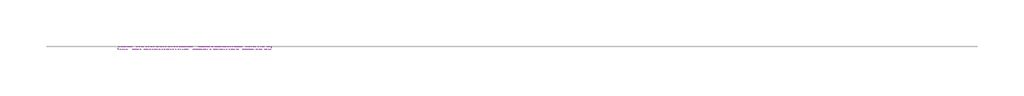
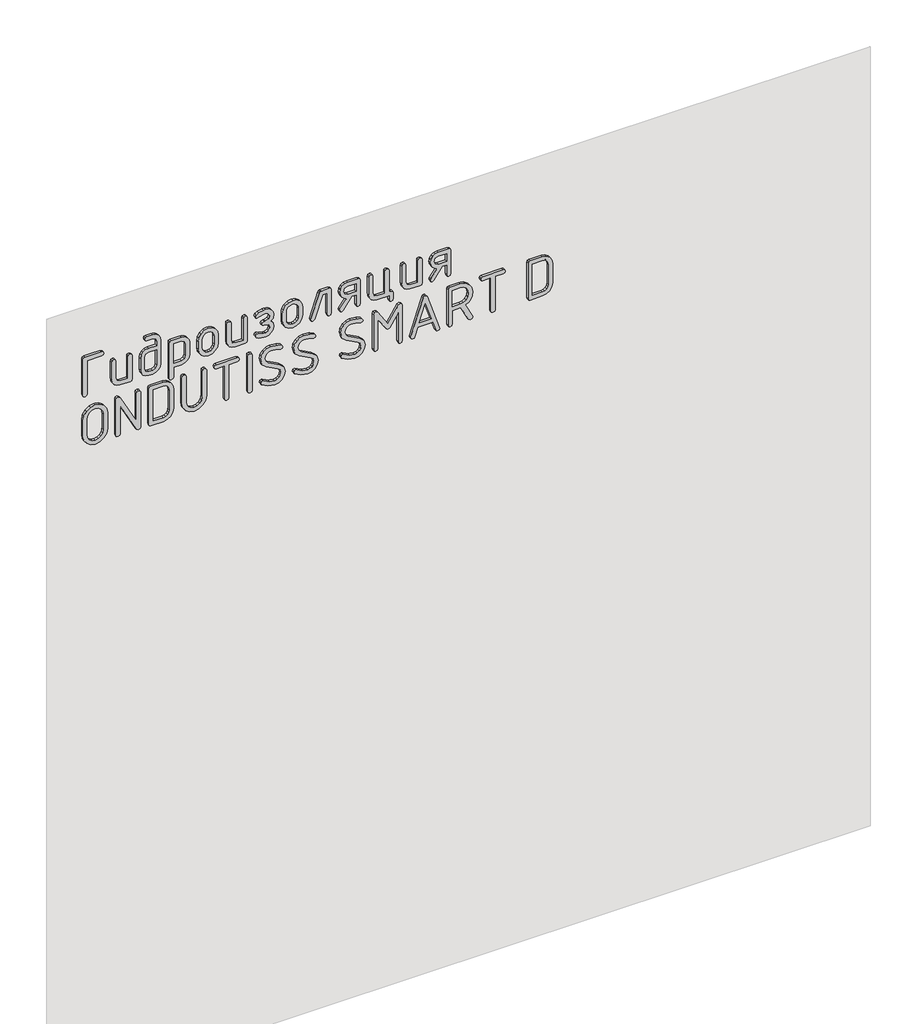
# One storey, part 33 of 42: 1 proxy.
"""IFC4 building model written with IfcOpenShell, lengths in millimetres."""

from ifc_helpers import new_model, si_unit, frame, origin, place, context, project, spatial, polyline, outline, extrude, element, save

model = new_model("IFC4")

# Units and contexts
model_context = context("Model", 3, world=origin())
ifc_project = project(units=[si_unit("LENGTHUNIT", "METRE", prefix="MILLI")], contexts=[model_context])

# Site, building, storey
site = spatial("IfcSite", under=ifc_project)
building = spatial("IfcBuilding", under=site)
storey = spatial("IfcBuildingStorey", under=building, Name="Этаж 01", Elevation=0.0)

# Proxy
placement = place(None, origin())
element("IfcBuildingElementProxy", 1, Name="150 мм GOST Common", ObjectType="150 мм GOST Common", at=placement, inside=storey, context=model_context, shape_type="SweptSolid", body=[
    extrude(outline(polyline([(2798.1927108, -4395.2767702), (2798.1927108, -4342.7803651), (2800.1103877, -4337.1471892), (2805.8634184, -4335.2694639), (2811.6164491, -4337.1471892), (2813.534126, -4342.7803651), (2813.534126, -4402.9474778), (2811.6464128, -4408.7005085), (2805.9832732, -4410.6181854), (2670.2277293, -4410.6181854), (2664.5645897, -4408.7005085), (2662.6768765, -4402.9474778), (2664.5546018, -4397.1944471), (2670.1877777, -4395.2767702), (2798.1927108, -4395.2767702)])), frame((0.0, -24838.3929597, 0.0), z_axis=(0.0, 1.0, 0.0), x_axis=(0.0, 0.0, 1.0)), (0.0, 0.0, 1.0), 10.0),
    extrude(outline(polyline([(2760.0389308, -4231.6350081), (2765.642143, -4233.552685), (2767.5098804, -4239.3057157), (2765.642143, -4245.0587464), (2760.0389308, -4246.9764233), (2678.0182917, -4246.9764233), (2678.0182917, -4275.9413348), (2682.4329437, -4286.168945), (2692.9202393, -4290.4437664), (2760.0389308, -4290.4437664), (2765.642143, -4292.3614433), (2767.5098804, -4298.114474), (2765.642143, -4303.8675047), (2760.0389308, -4305.7851816), (2692.6405781, -4305.7851816), (2681.004674, -4303.637783), (2671.3463742, -4297.1955871), (2664.8442509, -4287.6371663), (2662.6768765, -4276.1410928), (2662.6768765, -4239.0660061), (2664.5446139, -4233.4927576), (2670.1478261, -4231.6350081), (2760.0389308, -4231.6350081)])), frame((0.0, -24838.3929597, 0.0), z_axis=(0.0, 1.0, 0.0), x_axis=(0.0, 0.0, 1.0)), (0.0, 0.0, 1.0), 10.0),
    extrude(outline(polyline([(2783.3706664, -4126.8020043), (2794.9816007, -4128.934421), (2804.7247977, -4135.3316713), (2811.3317939, -4144.8151829), (2813.534126, -4156.2063834), (2813.534126, -4178.2596678), (2811.6164491, -4183.7729888), (2805.8634184, -4185.6107625), (2800.1103877, -4183.8029525), (2798.1927108, -4178.3795226), (2798.1927108, -4156.645851), (2793.7780587, -4146.3183619), (2782.8512956, -4142.1434195), (2767.5098804, -4142.1434195), (2767.5098804, -4171.5477986), (2765.342506, -4182.8890596), (2758.8403827, -4192.3825591), (2749.1820829, -4198.8097731), (2737.5461788, -4200.9521777), (2692.6405781, -4200.9521777), (2681.0795832, -4198.8047791), (2671.4063016, -4192.3625833), (2664.8592328, -4182.8041625), (2662.6768765, -4171.308089), (2662.6768765, -4156.446093), (2664.8642267, -4145.0249288), (2671.4262774, -4135.4515261), (2681.1544925, -4128.9643847), (2692.8403361, -4126.8020043), (2783.3706664, -4126.8020043)]), holes=[polyline([(2692.8403361, -4142.1434195), (2682.3530405, -4146.3782893), (2678.0182917, -4156.645851), (2678.0182917, -4171.108331), (2682.3929921, -4181.3359411), (2692.8403361, -4185.6107625), (2737.3464208, -4185.6107625), (2747.8337163, -4181.3758927), (2752.1684652, -4171.108331), (2752.1684652, -4142.1434195), (2692.8403361, -4142.1434195)])]), frame((0.0, -24838.3929597, 0.0), z_axis=(0.0, 1.0, 0.0), x_axis=(0.0, 0.0, 1.0)), (0.0, 0.0, 1.0), 10.0),
    extrude(outline(polyline([(2759.9590276, -4096.1191739), (2624.2034837, -4096.1191739), (2618.5403441, -4094.201497), (2616.6526309, -4088.4484663), (2618.5703078, -4082.6954356), (2624.3233385, -4080.7777587), (2662.6768765, -4080.7777587), (2662.6768765, -4051.3733796), (2664.8592328, -4039.982179), (2671.4063016, -4030.4986675), (2681.0795832, -4024.1014172), (2692.6405781, -4021.9690004), (2737.5461788, -4021.9690004), (2749.1820829, -4024.116399), (2758.8403827, -4030.5585949), (2765.342506, -4040.1170157), (2767.5098804, -4051.6130892), (2767.5098804, -4088.6881759), (2765.6221672, -4094.2614244), (2759.9590276, -4096.1191739)]), holes=[polyline([(2752.1684652, -4080.7777587), (2752.1684652, -4051.8128472), (2747.8936437, -4041.485358), (2737.3464208, -4037.3104156), (2692.8403361, -4037.3104156), (2682.3530405, -4041.5452854), (2678.0182917, -4051.8128472), (2678.0182917, -4080.7777587), (2752.1684652, -4080.7777587)])]), frame((0.0, -24838.3929597, 0.0), z_axis=(0.0, 1.0, 0.0), x_axis=(0.0, 0.0, 1.0)), (0.0, 0.0, 1.0), 10.0),
    extrude(outline(polyline([(2700.1115277, -3991.28617), (2685.718963, -3988.574455), (2673.6236155, -3980.4393101), (2665.4135613, -3968.4588234), (2662.6768765, -3954.2110833), (2665.4135613, -3939.9633432), (2673.6236155, -3927.9828565), (2685.718963, -3919.8477116), (2700.1115277, -3917.1359966), (2730.0752292, -3917.1359966), (2744.6176124, -3919.8177479), (2756.6829962, -3927.8630017), (2764.8031593, -3939.8135247), (2767.5098804, -3954.2110833), (2764.7731956, -3968.4588234), (2756.5631414, -3980.4393101), (2744.4677939, -3988.574455), (2730.0752292, -3991.28617), (2700.1115277, -3991.28617)]), holes=[polyline([(2700.5509953, -3932.4774118), (2691.8914855, -3934.0704819), (2684.6103061, -3938.8496923), (2679.6662953, -3945.8761803), (2678.0182917, -3954.2110833), (2679.6563074, -3962.6208955), (2684.5703545, -3969.6324017), (2691.841546, -3974.3666666), (2700.5509953, -3975.9447548), (2730.5546484, -3975.9447548), (2739.1841945, -3974.3516847), (2746.4553861, -3969.5724743), (2751.3993968, -3962.5459863), (2753.0474004, -3954.2110833), (2751.3993968, -3945.8761803), (2746.4553861, -3938.8496923), (2739.1841945, -3934.0704819), (2730.5546484, -3932.4774118), (2700.5509953, -3932.4774118)])]), frame((0.0, -24838.3929597, 0.0), z_axis=(0.0, 1.0, 0.0), x_axis=(0.0, 0.0, 1.0)), (0.0, 0.0, 1.0), 10.0),
    extrude(outline(polyline([(2760.0389308, -3812.3029927), (2765.642143, -3814.2206696), (2767.5098804, -3819.9737003), (2765.642143, -3825.726731), (2760.0389308, -3827.6444079), (2678.0182917, -3827.6444079), (2678.0182917, -3856.6093194), (2682.4329437, -3866.8369296), (2692.9202393, -3871.111751), (2760.0389308, -3871.111751), (2765.642143, -3873.0294279), (2767.5098804, -3878.7824586), (2765.642143, -3884.5354893), (2760.0389308, -3886.4531662), (2692.6405781, -3886.4531662), (2681.004674, -3884.3057676), (2671.3463742, -3877.8635717), (2664.8442509, -3868.3051509), (2662.6768765, -3856.8090774), (2662.6768765, -3819.7339907), (2664.5446139, -3814.1607422), (2670.1478261, -3812.3029927), (2760.0389308, -3812.3029927)])), frame((0.0, -24838.3929597, 0.0), z_axis=(0.0, 1.0, 0.0), x_axis=(0.0, 0.0, 1.0)), (0.0, 0.0, 1.0), 10.0),
    extrude(outline(polyline([(2693.3996585, -3730.4821117), (2682.5128469, -3734.8568121), (2678.0182917, -3745.5039141), (2678.0182917, -3753.0148152), (2681.8336697, -3768.0565934), (2685.6490477, -3777.1855345), (2682.9323388, -3781.3005495), (2677.6587273, -3783.0184684), (2671.7059386, -3779.9721587), (2666.6320851, -3770.8332298), (2662.6768765, -3753.0148152), (2662.6768765, -3745.5039141), (2664.8991844, -3733.8180704), (2671.566108, -3724.0099521), (2681.4591234, -3717.3580104), (2693.3597069, -3715.1406965), (2707.1829612, -3717.7874901), (2716.3718297, -3725.727871), (2725.0113637, -3717.7874901), (2738.3052592, -3715.1406965), (2749.6215505, -3717.3580104), (2759.0401407, -3724.0099521), (2765.3924455, -3733.8180704), (2767.5098804, -3745.5039141), (2767.5098804, -3753.0148152), (2763.434817, -3770.713375), (2758.2710724, -3779.942195), (2752.5280296, -3783.0184684), (2747.2743939, -3781.3005495), (2744.5377092, -3777.3053893), (2748.3530872, -3768.396182), (2752.1684652, -3753.0148152), (2752.1684652, -3745.5039141), (2748.1133776, -3734.8168605), (2738.1055012, -3730.4821117), (2728.0976249, -3734.5172235), (2724.0425373, -3746.1830913), (2724.0425373, -3748.5801874), (2724.0425373, -3750.8574287), (2721.7852718, -3758.2684509), (2716.3318781, -3760.4857648), (2710.8984602, -3758.3283783), (2708.7011221, -3753.0148152), (2708.7011221, -3743.3465275), (2704.7459135, -3734.4772719), (2693.3996585, -3730.4821117)])), frame((0.0, -24838.3929597, 0.0), z_axis=(0.0, 1.0, 0.0), x_axis=(0.0, 0.0, 1.0)), (0.0, 0.0, 1.0), 10.0),
    extrude(outline(polyline([(2700.1115277, -3684.4578661), (2685.718963, -3681.7461511), (2673.6236155, -3673.6110061), (2665.4135613, -3661.6305194), (2662.6768765, -3647.3827794), (2665.4135613, -3633.1350393), (2673.6236155, -3621.1545526), (2685.718963, -3613.0194076), (2700.1115277, -3610.3076926), (2730.0752292, -3610.3076926), (2744.6176124, -3612.9894439), (2756.6829962, -3621.0346978), (2764.8031593, -3632.9852208), (2767.5098804, -3647.3827794), (2764.7731956, -3661.6305194), (2756.5631414, -3673.6110061), (2744.4677939, -3681.7461511), (2730.0752292, -3684.4578661), (2700.1115277, -3684.4578661)]), holes=[polyline([(2700.5509953, -3625.6491078), (2691.8914855, -3627.242178), (2684.6103061, -3632.0213884), (2679.6662953, -3639.0478764), (2678.0182917, -3647.3827794), (2679.6563074, -3655.7925916), (2684.5703545, -3662.8040978), (2691.841546, -3667.5383626), (2700.5509953, -3669.1164509), (2730.5546484, -3669.1164509), (2739.1841945, -3667.5233807), (2746.4553861, -3662.7441704), (2751.3993968, -3655.7176823), (2753.0474004, -3647.3827794), (2751.3993968, -3639.0478764), (2746.4553861, -3632.0213884), (2739.1841945, -3627.242178), (2730.5546484, -3625.6491078), (2700.5509953, -3625.6491078)])]), frame((0.0, -24838.3929597, 0.0), z_axis=(0.0, 1.0, 0.0), x_axis=(0.0, 0.0, 1.0)), (0.0, 0.0, 1.0), 10.0),
    extrude(outline(polyline([(2767.5098804, -3543.3088559), (2765.9817316, -3547.9032902), (2761.3972852, -3550.8197571), (2672.5449222, -3580.4638459), (2670.2676809, -3580.8234103), (2664.5745776, -3578.945685), (2662.6768765, -3573.3125091), (2667.75073, -3566.2410755), (2752.1684652, -3537.9553413), (2752.1684652, -3520.816104), (2670.1478261, -3520.816104), (2664.5446139, -3518.8984271), (2662.6768765, -3513.1453964), (2664.5446139, -3507.3923657), (2670.1478261, -3505.4746888), (2760.0389308, -3505.4746888), (2765.642143, -3507.3923657), (2767.5098804, -3513.1453964), (2767.5098804, -3543.3088559)])), frame((0.0, -24838.3929597, 0.0), z_axis=(0.0, 1.0, 0.0), x_axis=(0.0, 0.0, 1.0)), (0.0, 0.0, 1.0), 10.0),
    extrude(outline(polyline([(2707.8221869, -3449.2627847), (2674.7023087, -3474.5121972), (2670.1478261, -3475.9904064), (2664.5446139, -3474.1126811), (2662.6768765, -3468.4795053), (2665.7531499, -3462.4468133), (2707.6623805, -3431.2046605), (2707.6623805, -3415.9831001), (2670.1877777, -3415.9831001), (2664.5546018, -3414.0654232), (2662.6768765, -3408.3123925), (2664.5446139, -3402.5593618), (2670.1478261, -3400.6416849), (2760.0389308, -3400.6416849), (2765.642143, -3402.5593618), (2767.5098804, -3408.3123925), (2767.5098804, -3445.9867533), (2765.342506, -3457.6026816), (2758.8403827, -3467.2809572), (2749.1820829, -3473.8130441), (2737.5461788, -3475.9904064), (2726.784216, -3474.0976993), (2717.5903536, -3468.4195778), (2710.9434058, -3459.8449653), (2707.8221869, -3449.2627847)]), holes=[polyline([(2737.1466628, -3460.9686041), (2747.7937647, -3456.5939036), (2752.1684652, -3445.9867533), (2752.1684652, -3415.9831001), (2722.164812, -3415.9831001), (2722.164812, -3445.9867533), (2726.5994398, -3456.5339762), (2737.1466628, -3460.9686041)])]), frame((0.0, -24838.3929597, 0.0), z_axis=(0.0, 1.0, 0.0), x_axis=(0.0, 0.0, 1.0)), (0.0, 0.0, 1.0), 10.0),
    extrude(outline(polyline([(2678.0182917, -3288.1379735), (2678.0182917, -3295.8086811), (2760.0389308, -3295.8086811), (2765.642143, -3297.726358), (2767.5098804, -3303.4793887), (2765.642143, -3309.2324194), (2760.0389308, -3311.1500963), (2678.0182917, -3311.1500963), (2678.0182917, -3340.1150078), (2682.4329437, -3350.3426179), (2692.9202393, -3354.6174393), (2760.0389308, -3354.6174393), (2765.642143, -3356.5351162), (2767.5098804, -3362.2881469), (2765.642143, -3368.0411776), (2760.0389308, -3369.9588545), (2692.6405781, -3369.9588545), (2681.0795832, -3367.8114559), (2671.4063016, -3361.3692601), (2664.8592328, -3351.8108393), (2662.6768765, -3340.3147658), (2662.6768765, -3295.8086811), (2647.3354613, -3295.8086811), (2641.5824306, -3293.8910042), (2639.6647537, -3288.1379735), (2641.5824306, -3282.3849428), (2647.3354613, -3280.4672659), (2670.3475841, -3280.4672659), (2676.1006148, -3282.3849428), (2678.0182917, -3288.1379735)])), frame((0.0, -24838.3929597, 0.0), z_axis=(0.0, 1.0, 0.0), x_axis=(0.0, 0.0, 1.0)), (0.0, 0.0, 1.0), 10.0),
    extrude(outline(polyline([(2760.0389308, -3175.634262), (2765.642143, -3177.5519389), (2767.5098804, -3183.3049696), (2765.642143, -3189.0580003), (2760.0389308, -3190.9756772), (2678.0182917, -3190.9756772), (2678.0182917, -3219.9405887), (2682.4329437, -3230.1681989), (2692.9202393, -3234.4430203), (2760.0389308, -3234.4430203), (2765.642143, -3236.3606972), (2767.5098804, -3242.1137279), (2765.642143, -3247.8667586), (2760.0389308, -3249.7844355), (2692.6405781, -3249.7844355), (2681.004674, -3247.6370369), (2671.3463742, -3241.194841), (2664.8442509, -3231.6364202), (2662.6768765, -3220.1403467), (2662.6768765, -3183.06526), (2664.5446139, -3177.4920115), (2670.1478261, -3175.634262), (2760.0389308, -3175.634262)])), frame((0.0, -24838.3929597, 0.0), z_axis=(0.0, 1.0, 0.0), x_axis=(0.0, 0.0, 1.0)), (0.0, 0.0, 1.0), 10.0),
    extrude(outline(polyline([(2707.8221869, -3119.4223579), (2674.7023087, -3144.6717704), (2670.1478261, -3146.1499797), (2664.5446139, -3144.2722544), (2662.6768765, -3138.6390785), (2665.7531499, -3132.6063866), (2707.6623805, -3101.3642338), (2707.6623805, -3086.1426734), (2670.1877777, -3086.1426734), (2664.5546018, -3084.2249965), (2662.6768765, -3078.4719658), (2664.5446139, -3072.7189351), (2670.1478261, -3070.8012582), (2760.0389308, -3070.8012582), (2765.642143, -3072.7189351), (2767.5098804, -3078.4719658), (2767.5098804, -3116.1463265), (2765.342506, -3127.7622548), (2758.8403827, -3137.4405304), (2749.1820829, -3143.9726174), (2737.5461788, -3146.1499797), (2726.784216, -3144.2572725), (2717.5903536, -3138.5791511), (2710.9434058, -3130.0045385), (2707.8221869, -3119.4223579)]), holes=[polyline([(2737.1466628, -3131.1281773), (2747.7937647, -3126.7534769), (2752.1684652, -3116.1463265), (2752.1684652, -3086.1426734), (2722.164812, -3086.1426734), (2722.164812, -3116.1463265), (2726.5994398, -3126.6935495), (2737.1466628, -3131.1281773)])]), frame((0.0, -24838.3929597, 0.0), z_axis=(0.0, 1.0, 0.0), x_axis=(0.0, 0.0, 1.0)), (0.0, 0.0, 1.0), 10.0),
    extrude(outline(polyline([(2511.9177961, -4321.1265968), (2572.2447152, -4321.1265968), (2589.6885835, -4324.3876463), (2604.3058759, -4334.1707949), (2614.2088792, -4348.618293), (2617.5098804, -4365.8723911), (2614.1938974, -4383.05158), (2604.2459485, -4397.5140599), (2589.6136742, -4407.3421541), (2572.2447152, -4410.6181854), (2511.9177961, -4410.6181854), (2494.5488371, -4407.3421541), (2479.9165628, -4397.5140599), (2469.9686139, -4383.05158), (2466.6526309, -4365.8723911), (2469.9686139, -4348.6932022), (2479.9165628, -4334.2307223), (2494.5488371, -4324.4026281), (2511.9177961, -4321.1265968)]), holes=[polyline([(2512.0376509, -4336.468012), (2500.3917589, -4338.6004287), (2490.7034954, -4344.997679), (2484.1714084, -4354.4811906), (2481.9940461, -4365.8723911), (2484.1714084, -4377.2635916), (2490.7034954, -4386.7471032), (2500.3917589, -4393.1443535), (2512.0376509, -4395.2767702), (2572.1248604, -4395.2767702), (2583.7707524, -4393.1443535), (2593.4590159, -4386.7471032), (2599.9911029, -4377.2635916), (2602.1684652, -4365.8723911), (2599.9911029, -4354.4811906), (2593.4590159, -4344.997679), (2583.7707524, -4338.6004287), (2572.1248604, -4336.468012), (2512.0376509, -4336.468012)])]), frame((0.0, -24838.3929597, 0.0), z_axis=(0.0, 1.0, 0.0), x_axis=(0.0, 0.0, 1.0)), (0.0, 0.0, 1.0), 10.0),
    extrude(outline(polyline([(2503.3282016, -4216.2935929), (2613.0353009, -4275.1023512), (2617.5098804, -4282.453446), (2615.6221672, -4288.4461863), (2609.9590276, -4290.4437664), (2474.2034837, -4290.4437664), (2468.5403441, -4288.5260895), (2466.6526309, -4282.7730588), (2468.5403441, -4277.0200281), (2474.2034837, -4275.1023512), (2580.9541645, -4275.1023512), (2470.4080815, -4216.2935929), (2466.6526309, -4209.1023046), (2468.5403441, -4202.9897094), (2474.2034837, -4200.9521777), (2609.9590276, -4200.9521777), (2615.6221672, -4202.8698546), (2617.5098804, -4208.6228853), (2615.6221672, -4214.375916), (2609.9590276, -4216.2935929), (2503.3282016, -4216.2935929)])), frame((0.0, -24838.3929597, 0.0), z_axis=(0.0, 1.0, 0.0), x_axis=(0.0, 0.0, 1.0)), (0.0, 0.0, 1.0), 10.0),
    extrude(outline(polyline([(2609.9590276, -4170.2693473), (2474.2034837, -4170.2693473), (2468.5403441, -4168.4016099), (2466.6526309, -4162.7983977), (2466.6526309, -4118.0526034), (2469.4092915, -4103.7299541), (2477.6792731, -4091.684546), (2489.8645117, -4083.5044555), (2504.3669433, -4080.7777587), (2579.795568, -4080.7777587), (2594.4478181, -4083.4744918), (2606.603093, -4091.5646912), (2614.7831835, -4103.5801356), (2617.5098804, -4118.0526034), (2617.5098804, -4162.7983977), (2615.6221672, -4168.4016099), (2609.9590276, -4170.2693473)]), holes=[polyline([(2602.1684652, -4154.9279321), (2602.1684652, -4118.1724582), (2600.5204616, -4109.6977246), (2595.5764508, -4102.5713576), (2588.2952713, -4097.7322198), (2579.6357616, -4096.1191739), (2504.5267497, -4096.1191739), (2495.8672399, -4097.7322198), (2488.5860605, -4102.5713576), (2483.6420497, -4109.6977246), (2481.9940461, -4118.1724582), (2481.9940461, -4154.9279321), (2602.1684652, -4154.9279321)])]), frame((0.0, -24838.3929597, 0.0), z_axis=(0.0, 1.0, 0.0), x_axis=(0.0, 0.0, 1.0)), (0.0, 0.0, 1.0), 10.0),
    extrude(outline(polyline([(2609.9590276, -3960.6033396), (2615.6221672, -3962.5210165), (2617.5098804, -3968.2740472), (2615.6321551, -3974.0270779), (2609.9989792, -3975.9447548), (2512.1175541, -3975.9447548), (2500.4367044, -3978.0771716), (2490.7234712, -3984.4744219), (2484.1764024, -3993.9579334), (2481.9940461, -4005.349134), (2484.1764024, -4016.7403345), (2490.7234712, -4026.223846), (2500.4367044, -4032.6210963), (2512.1175541, -4034.7535131), (2609.9989792, -4034.7535131), (2615.6321551, -4036.67119), (2617.5098804, -4042.4242207), (2615.6221672, -4048.1772514), (2609.9590276, -4050.0949283), (2511.9177961, -4050.0949283), (2494.5488371, -4046.8188969), (2479.9165628, -4036.9908028), (2469.9686139, -4022.5283229), (2466.6526309, -4005.349134), (2469.9686139, -3988.1699451), (2479.9165628, -3973.7074651), (2494.5488371, -3963.879371), (2511.9177961, -3960.6033396), (2609.9590276, -3960.6033396)])), frame((0.0, -24838.3929597, 0.0), z_axis=(0.0, 1.0, 0.0), x_axis=(0.0, 0.0, 1.0)), (0.0, 0.0, 1.0), 10.0),
    extrude(outline(polyline([(2609.8391728, -3931.6384281), (2604.0861421, -3929.7607028), (2602.1684652, -3924.1275269), (2602.1684652, -3894.1238738), (2474.1635321, -3894.1238738), (2468.5303562, -3892.2061969), (2466.6526309, -3886.4531662), (2468.5303562, -3880.7001355), (2474.1635321, -3878.7824586), (2602.1684652, -3878.7824586), (2602.1684652, -3848.7788054), (2604.0861421, -3843.1755932), (2609.8391728, -3841.3078558), (2615.5922035, -3843.1755932), (2617.5098804, -3848.7788054), (2617.5098804, -3924.1275269), (2615.5922035, -3929.7607028), (2609.8391728, -3931.6384281)])), frame((0.0, -24838.3929597, 0.0), z_axis=(0.0, 1.0, 0.0), x_axis=(0.0, 0.0, 1.0)), (0.0, 0.0, 1.0), 10.0),
    extrude(outline(polyline([(2466.6526309, -3802.0753826), (2468.5403441, -3796.3223519), (2474.2034837, -3794.404675), (2609.9590276, -3794.404675), (2615.6221672, -3796.3223519), (2617.5098804, -3802.0753826), (2615.6221672, -3807.8284133), (2609.9590276, -3809.7460902), (2474.2034837, -3809.7460902), (2468.5403441, -3807.8284133), (2466.6526309, -3802.0753826)])), frame((0.0, -24838.3929597, 0.0), z_axis=(0.0, 1.0, 0.0), x_axis=(0.0, 0.0, 1.0)), (0.0, 0.0, 1.0), 10.0),
    extrude(outline(polyline([(2504.2870401, -3674.2302559), (2524.1429863, -3679.3140973), (2537.8463858, -3694.5656214), (2559.5001542, -3736.2351424), (2567.6602689, -3745.3441076), (2579.59581, -3748.3804294), (2588.2603137, -3746.7673835), (2595.556475, -3741.9282457), (2600.5154676, -3734.8018786), (2602.1684652, -3726.3271451), (2600.4904979, -3709.567448), (2595.456596, -3692.6878961), (2594.657564, -3689.5716711), (2596.8748779, -3684.2780839), (2602.1684652, -3682.06077), (2609.1599955, -3686.4953978), (2615.4224092, -3703.4648408), (2617.5098804, -3726.6467579), (2614.7432319, -3740.8195887), (2606.4432866, -3752.8150572), (2594.2680359, -3760.9951478), (2579.8754712, -3763.7218446), (2560.0494887, -3758.6979306), (2546.4359803, -3743.6261888), (2524.7822119, -3701.9167162), (2516.5322061, -3692.6579324), (2504.5667013, -3689.5716711), (2495.9021976, -3691.1996989), (2488.6060363, -3696.0837823), (2483.6470437, -3703.2750707), (2481.9940461, -3711.8247135), (2485.1901743, -3731.6007565), (2495.657494, -3752.0559768), (2497.0158485, -3756.2908466), (2494.7985346, -3761.5245065), (2489.5049473, -3763.7218446), (2483.3923522, -3760.4458132), (2470.8375612, -3737.5235815), (2466.6526309, -3711.5051007), (2469.4192794, -3697.2573606), (2477.7192247, -3685.1969707), (2489.8944754, -3676.9719346), (2504.2870401, -3674.2302559)])), frame((0.0, -24838.3929597, 0.0), z_axis=(0.0, 1.0, 0.0), x_axis=(0.0, 0.0, 1.0)), (0.0, 0.0, 1.0), 10.0),
    extrude(outline(polyline([(2504.2870401, -3554.0558369), (2524.1429863, -3559.1396783), (2537.8463858, -3574.3912024), (2559.5001542, -3616.0607233), (2567.6602689, -3625.1696886), (2579.59581, -3628.2060104), (2588.2603137, -3626.5929644), (2595.556475, -3621.7538266), (2600.5154676, -3614.6274596), (2602.1684652, -3606.152726), (2600.4904979, -3589.3930289), (2595.456596, -3572.5134771), (2594.657564, -3569.3972521), (2596.8748779, -3564.1036648), (2602.1684652, -3561.8863509), (2609.1599955, -3566.3209787), (2615.4224092, -3583.2904217), (2617.5098804, -3606.4723388), (2614.7432319, -3620.6451697), (2606.4432866, -3632.6406382), (2594.2680359, -3640.8207287), (2579.8754712, -3643.5474256), (2560.0494887, -3638.5235116), (2546.4359803, -3623.4517697), (2524.7822119, -3581.7422971), (2516.5322061, -3572.4835134), (2504.5667013, -3569.3972521), (2495.9021976, -3571.0252799), (2488.6060363, -3575.9093632), (2483.6470437, -3583.1006516), (2481.9940461, -3591.6502945), (2485.1901743, -3611.4263375), (2495.657494, -3631.8815577), (2497.0158485, -3636.1164276), (2494.7985346, -3641.3500874), (2489.5049473, -3643.5474256), (2483.3923522, -3640.2713942), (2470.8375612, -3617.3491625), (2466.6526309, -3591.3306816), (2469.4192794, -3577.0829415), (2477.7192247, -3565.0225517), (2489.8944754, -3556.7975156), (2504.2870401, -3554.0558369)])), frame((0.0, -24838.3929597, 0.0), z_axis=(0.0, 1.0, 0.0), x_axis=(0.0, 0.0, 1.0)), (0.0, 0.0, 1.0), 10.0),
    extrude(outline(polyline([(2504.2870401, -3382.7433672), (2524.1429863, -3387.8272086), (2537.8463858, -3403.0787327), (2559.5001542, -3444.7482536), (2567.6602689, -3453.8572189), (2579.59581, -3456.8935406), (2588.2603137, -3455.2804947), (2595.556475, -3450.4413569), (2600.5154676, -3443.3149899), (2602.1684652, -3434.8402563), (2600.4904979, -3418.0805592), (2595.456596, -3401.2010074), (2594.657564, -3398.0847824), (2596.8748779, -3392.7911951), (2602.1684652, -3390.5738812), (2609.1599955, -3395.008509), (2615.4224092, -3411.977952), (2617.5098804, -3435.1598691), (2614.7432319, -3449.3327), (2606.4432866, -3461.3281685), (2594.2680359, -3469.508259), (2579.8754712, -3472.2349558), (2560.0494887, -3467.2110419), (2546.4359803, -3452.1393), (2524.7822119, -3410.4298274), (2516.5322061, -3401.1710437), (2504.5667013, -3398.0847824), (2495.9021976, -3399.7128102), (2488.6060363, -3404.5968935), (2483.6470437, -3411.7881819), (2481.9940461, -3420.3378247), (2485.1901743, -3440.1138678), (2495.657494, -3460.569088), (2497.0158485, -3464.8039579), (2494.7985346, -3470.0376177), (2489.5049473, -3472.2349558), (2483.3923522, -3468.9589245), (2470.8375612, -3446.0366928), (2466.6526309, -3420.0182119), (2469.4192794, -3405.7704718), (2477.7192247, -3393.710082), (2489.8944754, -3385.4850459), (2504.2870401, -3382.7433672)])), frame((0.0, -24838.3929597, 0.0), z_axis=(0.0, 1.0, 0.0), x_axis=(0.0, 0.0, 1.0)), (0.0, 0.0, 1.0), 10.0),
    extrude(outline(polyline([(2617.5098804, -3255.5374662), (2614.1938974, -3262.5689481), (2555.7846552, -3299.7638897), (2613.7544298, -3336.7191216), (2617.5098804, -3343.91041), (2615.6221672, -3350.0230051), (2609.9590276, -3352.0605368), (2474.2034837, -3352.0605368), (2468.5403441, -3350.1428599), (2466.6526309, -3344.3898292), (2468.5403441, -3338.6367985), (2474.2034837, -3336.7191216), (2585.1490827, -3336.7191216), (2539.3245951, -3306.5956136), (2534.8100641, -3299.6440349), (2539.3245951, -3292.7723593), (2585.1490827, -3262.5689481), (2474.2034837, -3262.5689481), (2468.5403441, -3260.6512712), (2466.6526309, -3254.8982405), (2468.5403441, -3249.1452099), (2474.2034837, -3247.227533), (2609.9590276, -3247.227533), (2615.6221672, -3249.3050163), (2617.5098804, -3255.5374662)])), frame((0.0, -24838.3929597, 0.0), z_axis=(0.0, 1.0, 0.0), x_axis=(0.0, 0.0, 1.0)), (0.0, 0.0, 1.0), 10.0),
    extrude(outline(polyline([(2474.2034837, -3111.8715051), (2476.6005798, -3112.2310695), (2611.6769465, -3157.0168155), (2616.0516469, -3159.8134276), (2617.5098804, -3164.3679102), (2615.9917195, -3168.9823203), (2611.4372369, -3171.8788114), (2476.6005798, -3216.5447026), (2474.2034837, -3216.904267), (2468.5403441, -3215.0265417), (2466.6526309, -3209.3933658), (2467.9610459, -3204.8688468), (2471.8862908, -3202.242029), (2505.0061689, -3191.4151448), (2505.0061689, -3137.3206756), (2471.8862908, -3126.5337431), (2467.9610459, -3123.9069252), (2466.6526309, -3119.3824063), (2468.5403441, -3113.7492304), (2474.2034837, -3111.8715051)]), holes=[polyline([(2586.5074372, -3164.3679102), (2520.3475841, -3142.3545775), (2520.3475841, -3186.4211946), (2586.5074372, -3164.3679102)])]), frame((0.0, -24838.3929597, 0.0), z_axis=(0.0, 1.0, 0.0), x_axis=(0.0, 0.0, 1.0)), (0.0, 0.0, 1.0), 10.0),
    extrude(outline(polyline([(2530.1756782, -3017.705579), (2536.8800565, -3006.256948), (2546.1263554, -2998.0793545), (2557.9145749, -2993.1727984), (2572.2447152, -2991.5372797), (2589.6885835, -2994.7983292), (2604.3058759, -3004.5814777), (2614.2088792, -3019.0289758), (2617.5098804, -3036.283074), (2617.5098804, -3073.5579187), (2615.6221672, -3079.1611309), (2609.9590276, -3081.0288683), (2474.2034837, -3081.0288683), (2468.5403441, -3079.1111914), (2466.6526309, -3073.3581607), (2468.4904046, -3067.60513), (2474.0037257, -3065.6874531), (2525.4613892, -3065.6874531), (2525.4613892, -3036.6026868), (2525.581244, -3033.9658811), (2470.7676459, -3006.8786949), (2466.6526309, -2999.5675517), (2468.9298722, -2993.9743274), (2474.2034837, -2991.5372797), (2477.6393215, -2991.5372797), (2530.1756782, -3017.705579)]), holes=[polyline([(2602.1684652, -3065.6874531), (2602.1684652, -3036.283074), (2599.9461573, -3024.8918734), (2593.2792337, -3015.4083619), (2583.3862182, -3009.0111116), (2571.4856348, -3006.8786949), (2559.5850513, -3009.0111116), (2549.6920358, -3015.4083619), (2543.0251122, -3024.8918734), (2540.8028044, -3036.283074), (2540.8028044, -3065.6874531), (2602.1684652, -3065.6874531)])]), frame((0.0, -24838.3929597, 0.0), z_axis=(0.0, 1.0, 0.0), x_axis=(0.0, 0.0, 1.0)), (0.0, 0.0, 1.0), 10.0),
    extrude(outline(polyline([(2609.8391728, -2962.5723682), (2604.0861421, -2960.6946429), (2602.1684652, -2955.061467), (2602.1684652, -2925.0578138), (2474.1635321, -2925.0578138), (2468.5303562, -2923.1401369), (2466.6526309, -2917.3871062), (2468.5303562, -2911.6340755), (2474.1635321, -2909.7163986), (2602.1684652, -2909.7163986), (2602.1684652, -2879.7127454), (2604.0861421, -2874.1095333), (2609.8391728, -2872.2417959), (2615.5922035, -2874.1095333), (2617.5098804, -2879.7127454), (2617.5098804, -2955.061467), (2615.5922035, -2960.6946429), (2609.8391728, -2962.5723682)])), frame((0.0, -24838.3929597, 0.0), z_axis=(0.0, 1.0, 0.0), x_axis=(0.0, 0.0, 1.0)), (0.0, 0.0, 1.0), 10.0),
    extrude(outline(polyline([(2609.9590276, -2789.5419796), (2474.2034837, -2789.5419796), (2468.5403441, -2787.6742422), (2466.6526309, -2782.07103), (2466.6526309, -2737.3252356), (2469.4092915, -2723.0025863), (2477.6792731, -2710.9571783), (2489.8645117, -2702.7770877), (2504.3669433, -2700.0503909), (2579.795568, -2700.0503909), (2594.4478181, -2702.747124), (2606.603093, -2710.8373235), (2614.7831835, -2722.8527678), (2617.5098804, -2737.3252356), (2617.5098804, -2782.07103), (2615.6221672, -2787.6742422), (2609.9590276, -2789.5419796)]), holes=[polyline([(2602.1684652, -2774.2005644), (2602.1684652, -2737.4450904), (2600.5204616, -2728.9703569), (2595.5764508, -2721.8439898), (2588.2952713, -2717.004852), (2579.6357616, -2715.3918061), (2504.5267497, -2715.3918061), (2495.8672399, -2717.004852), (2488.5860605, -2721.8439898), (2483.6420497, -2728.9703569), (2481.9940461, -2737.4450904), (2481.9940461, -2774.2005644), (2602.1684652, -2774.2005644)])]), frame((0.0, -24838.3929597, 0.0), z_axis=(0.0, 1.0, 0.0), x_axis=(0.0, 0.0, 1.0)), (0.0, 0.0, 1.0), 10.0),
])

save(model, "model.ifc")
